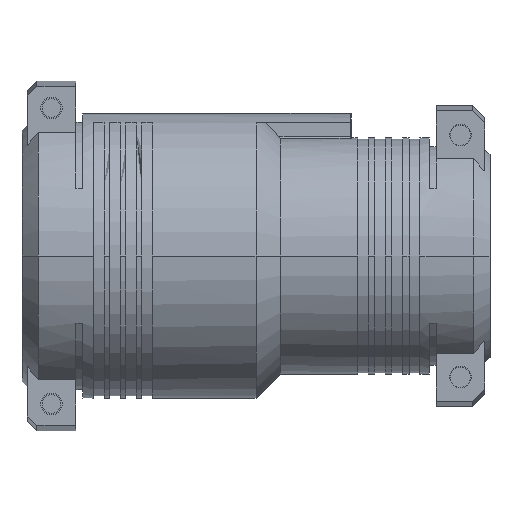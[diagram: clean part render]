
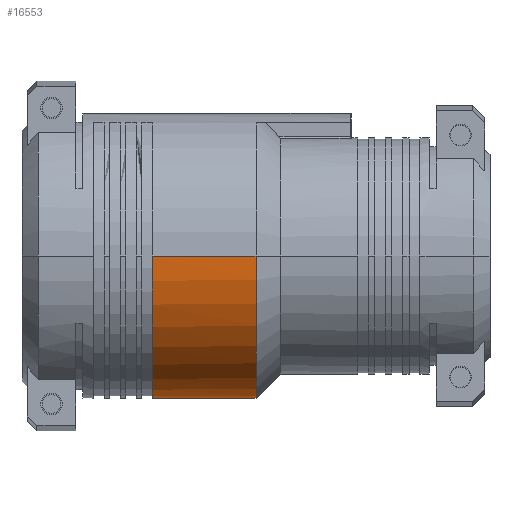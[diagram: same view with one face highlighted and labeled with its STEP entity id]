
A CAD part, front view. The second image highlights one B-rep face of the part: STEP entity #16553.
In plain terms, the highlighted cylindrical face has radius 26.5 mm (diameter 53 mm), a partial arc.
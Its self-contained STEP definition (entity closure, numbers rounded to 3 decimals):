
#635 = VERTEX_POINT ( 'NONE', #14853 ) ;
#701 = ORIENTED_EDGE ( 'NONE', *, *, #17222, .T. ) ;
#2440 = CARTESIAN_POINT ( 'NONE',  ( -15.75, 24.805, -9.324 ) ) ;
#2453 = CARTESIAN_POINT ( 'NONE',  ( -17., 24.805, -9.324 ) ) ;
#2475 = DIRECTION ( 'NONE',  ( 0., 0., 1. ) ) ;
#2476 = DIRECTION ( 'NONE',  ( -1., 0., 0. ) ) ;
#2477 = CARTESIAN_POINT ( 'NONE',  ( -15.75, 0., 0. ) ) ;
#2478 = AXIS2_PLACEMENT_3D ( 'NONE', #2477, #2476, #2475 ) ;
#2479 = CIRCLE ( 'NONE', #2478, 26.5 ) ;
#2480 = CARTESIAN_POINT ( 'NONE',  ( 3.502, 25.721, -6.38 ) ) ;
#2487 = CARTESIAN_POINT ( 'NONE',  ( -16.311, 24.815, -9.3 ) ) ;
#2495 = CARTESIAN_POINT ( 'NONE',  ( -14.062, 24.973, -8.867 ) ) ;
#2496 = CARTESIAN_POINT ( 'NONE',  ( -13.22, 25.092, -8.524 ) ) ;
#2497 = CARTESIAN_POINT ( 'NONE',  ( -12.816, 25.162, -8.317 ) ) ;
#2498 = CARTESIAN_POINT ( 'NONE',  ( -12.247, 25.283, -7.94 ) ) ;
#2499 = CARTESIAN_POINT ( 'NONE',  ( -12.065, 25.325, -7.804 ) ) ;
#2500 = CARTESIAN_POINT ( 'NONE',  ( -11.721, 25.414, -7.511 ) ) ;
#2501 = CARTESIAN_POINT ( 'NONE',  ( -11.558, 25.46, -7.352 ) ) ;
#2502 = CARTESIAN_POINT ( 'NONE',  ( -11.41, 25.509, -7.18 ) ) ;
#2505 = B_SPLINE_CURVE_WITH_KNOTS ( 'NONE', 3,
 ( #2502, #2501, #2500, #2499, #2498, #2497, #2496, #2495, #2533, #2532, #2531, #2530 ),
 .UNSPECIFIED., .F., .F.,
 ( 4, 2, 2, 2, 2, 4 ),
 ( 0., 0.001, 0.001, 0.003, 0.004, 0.006 ),
 .UNSPECIFIED. ) ;
#2508 = DIRECTION ( 'NONE',  ( -1., 0., 0. ) ) ;
#2509 = VECTOR ( 'NONE', #2508, 1000. ) ;
#2510 = CARTESIAN_POINT ( 'NONE',  ( -92.286, 24.805, -9.324 ) ) ;
#2511 = LINE ( 'NONE', #2510, #2509 ) ;
#2512 = CARTESIAN_POINT ( 'NONE',  ( -16.311, 24.815, -9.3 ) ) ;
#2513 = CARTESIAN_POINT ( 'NONE',  ( -16.54, 24.809, -9.316 ) ) ;
#2514 = CARTESIAN_POINT ( 'NONE',  ( -16.77, 24.805, -9.324 ) ) ;
#2515 = CARTESIAN_POINT ( 'NONE',  ( -17., 24.805, -9.324 ) ) ;
#2517 = B_SPLINE_CURVE_WITH_KNOTS ( 'NONE', 3,
 ( #2515, #2514, #2513, #2512 ),
 .UNSPECIFIED., .F., .F.,
 ( 4, 4 ),
 ( 0., 0.001 ),
 .UNSPECIFIED. ) ;
#2530 = CARTESIAN_POINT ( 'NONE',  ( -16.311, 24.815, -9.3 ) ) ;
#2531 = CARTESIAN_POINT ( 'NONE',  ( -15.851, 24.827, -9.267 ) ) ;
#2532 = CARTESIAN_POINT ( 'NONE',  ( -15.397, 24.851, -9.201 ) ) ;
#2533 = CARTESIAN_POINT ( 'NONE',  ( -14.504, 24.924, -9.002 ) ) ;
#4350 = EDGE_LOOP ( 'NONE', ( #16638, #16644, #5225, #10113, #14236, #12562, #14247, #701, #14179 ) ) ;
#4949 = VERTEX_POINT ( 'NONE', #2453 ) ;
#5225 = ORIENTED_EDGE ( 'NONE', *, *, #6268, .T. ) ;
#5657 = CARTESIAN_POINT ( 'NONE',  ( -11.41, 25.509, -7.18 ) ) ;
#5722 = VERTEX_POINT ( 'NONE', #2440 ) ;
#5737 = EDGE_CURVE ( 'NONE', #5722, #13491, #2479, .T. ) ;
#6268 = EDGE_CURVE ( 'NONE', #4949, #6312, #2517, .T. ) ;
#6312 = VERTEX_POINT ( 'NONE', #2487 ) ;
#6352 = EDGE_CURVE ( 'NONE', #5722, #4949, #2511, .T. ) ;
#6368 = VERTEX_POINT ( 'NONE', #2480 ) ;
#6393 = EDGE_CURVE ( 'NONE', #10290, #6312, #2505, .T. ) ;
#6394 = CARTESIAN_POINT ( 'NONE',  ( -10.788, 25.721, -6.38 ) ) ;
#8796 = DIRECTION ( 'NONE',  ( -1., 0., 0. ) ) ;
#9787 = B_SPLINE_CURVE_WITH_KNOTS ( 'NONE', 3,
 ( #9909, #9906, #9903, #9901 ),
 .UNSPECIFIED., .F., .F.,
 ( 4, 4 ),
 ( 0., 0. ),
 .UNSPECIFIED. ) ;
#9866 = CARTESIAN_POINT ( 'NONE',  ( 3.5, -26.5, 0. ) ) ;
#9901 = CARTESIAN_POINT ( 'NONE',  ( 3.5, 25.712, -6.414 ) ) ;
#9903 = CARTESIAN_POINT ( 'NONE',  ( 3.5, 25.715, -6.403 ) ) ;
#9906 = CARTESIAN_POINT ( 'NONE',  ( 3.501, 25.718, -6.391 ) ) ;
#9909 = CARTESIAN_POINT ( 'NONE',  ( 3.502, 25.721, -6.38 ) ) ;
#9928 = DIRECTION ( 'NONE',  ( 1., 0., 0. ) ) ;
#9930 = VECTOR ( 'NONE', #9928, 1000. ) ;
#9932 = CARTESIAN_POINT ( 'NONE',  ( -92.286, -26.5, 0. ) ) ;
#9941 = LINE ( 'NONE', #9932, #9930 ) ;
#9954 = CARTESIAN_POINT ( 'NONE',  ( -15.75, -26.5, 0. ) ) ;
#10113 = ORIENTED_EDGE ( 'NONE', *, *, #6393, .F. ) ;
#10141 = B_SPLINE_CURVE_WITH_KNOTS ( 'NONE', 3,
 ( #10304, #10301, #10297, #10294 ),
 .UNSPECIFIED., .F., .F.,
 ( 4, 4 ),
 ( 0., 0.001 ),
 .UNSPECIFIED. ) ;
#10150 = LINE ( 'NONE', #10312, #10289 ) ;
#10238 = FACE_OUTER_BOUND ( 'NONE', #4350, .T. ) ;
#10280 = DIRECTION ( 'NONE',  ( 0., 0., 1. ) ) ;
#10288 = DIRECTION ( 'NONE',  ( 1., 0., 0. ) ) ;
#10290 = VERTEX_POINT ( 'NONE', #5657 ) ;
#10289 = VECTOR ( 'NONE', #10288, 1000. ) ;
#10294 = CARTESIAN_POINT ( 'NONE',  ( -10.788, 25.721, -6.38 ) ) ;
#10297 = CARTESIAN_POINT ( 'NONE',  ( -10.982, 25.652, -6.657 ) ) ;
#10301 = CARTESIAN_POINT ( 'NONE',  ( -11.189, 25.581, -6.924 ) ) ;
#10304 = CARTESIAN_POINT ( 'NONE',  ( -11.41, 25.509, -7.18 ) ) ;
#10312 = CARTESIAN_POINT ( 'NONE',  ( -92.286, 25.721, -6.38 ) ) ;
#10352 = DIRECTION ( 'NONE',  ( 0., 0., 1. ) ) ;
#10354 = DIRECTION ( 'NONE',  ( -1., 0., 0. ) ) ;
#10356 = CARTESIAN_POINT ( 'NONE',  ( 3.5, 0., 0. ) ) ;
#10358 = AXIS2_PLACEMENT_3D ( 'NONE', #10356, #10354, #10352 ) ;
#10360 = CIRCLE ( 'NONE', #10358, 26.5 ) ;
#11257 = VERTEX_POINT ( 'NONE', #6394 ) ;
#11933 = CARTESIAN_POINT ( 'NONE',  ( -92.286, 0., 0. ) ) ;
#11934 = AXIS2_PLACEMENT_3D ( 'NONE', #11933, #8796, #10280 ) ;
#11935 = CYLINDRICAL_SURFACE ( 'NONE', #11934, 26.5 ) ;
#12562 = ORIENTED_EDGE ( 'NONE', *, *, #14094, .T. ) ;
#13478 = VERTEX_POINT ( 'NONE', #9866 ) ;
#13488 = EDGE_CURVE ( 'NONE', #13491, #13478, #9941, .T. ) ;
#13490 = EDGE_CURVE ( 'NONE', #6368, #635, #9787, .T. ) ;
#13491 = VERTEX_POINT ( 'NONE', #9954 ) ;
#14090 = EDGE_CURVE ( 'NONE', #10290, #11257, #10141, .T. ) ;
#14094 = EDGE_CURVE ( 'NONE', #11257, #6368, #10150, .T. ) ;
#14179 = ORIENTED_EDGE ( 'NONE', *, *, #13488, .F. ) ;
#14236 = ORIENTED_EDGE ( 'NONE', *, *, #14090, .T. ) ;
#14247 = ORIENTED_EDGE ( 'NONE', *, *, #13490, .T. ) ;
#14853 = CARTESIAN_POINT ( 'NONE',  ( 3.5, 25.712, -6.414 ) ) ;
#16553 = ADVANCED_FACE ( 'NONE', ( #10238 ), #11935, .T. ) ;
#16638 = ORIENTED_EDGE ( 'NONE', *, *, #5737, .F. ) ;
#16644 = ORIENTED_EDGE ( 'NONE', *, *, #6352, .T. ) ;
#17222 = EDGE_CURVE ( 'NONE', #635, #13478, #10360, .T. ) ;
